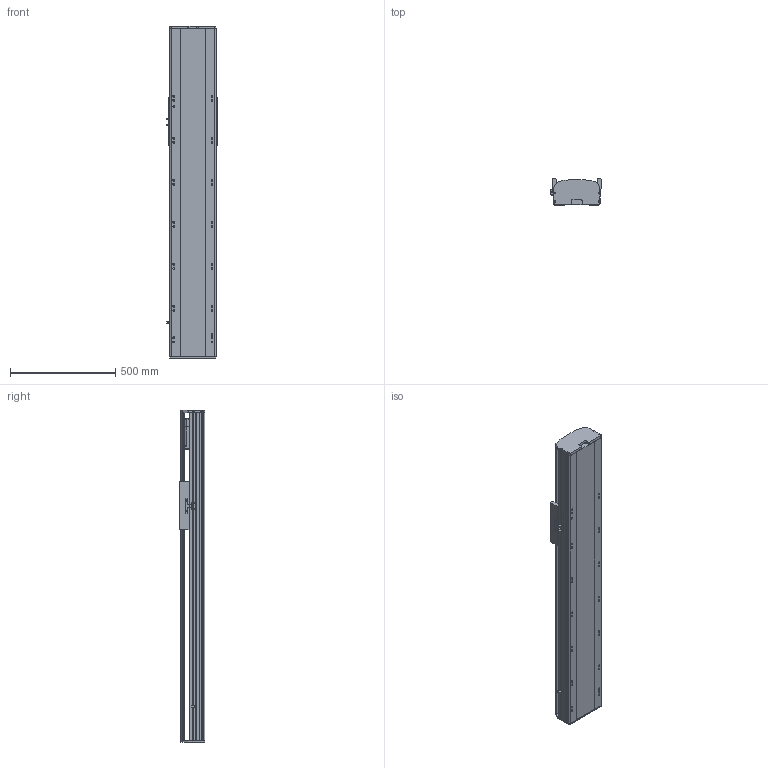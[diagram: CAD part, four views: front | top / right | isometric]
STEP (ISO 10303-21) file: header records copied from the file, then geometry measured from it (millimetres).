
FILE_DESCRIPTION (( 'STEP AP214' ), '1' );
FILE_NAME ('RTH22-XX-950-B-M75B-C4.STEP', '2025-10-24T10:11:23', ( 'Microsoft' ), ( 'Microsoft' ), 'SwSTEP 2.0', 'SolidWorks 2018', '' );
FILE_SCHEMA (( 'AUTOMOTIVE_DESIGN' ));
Length unit declared in the file: millimetre
Products named in the file (9): N_OMRON EE-SX672 传感器^RTH22-XX-XX-B-M75B-C4; N_RTH22-B-007B奻裔^RTH22-XX-XX-B-M75B-C4; N_RTH22-B-011B菁釱^RTH22-XX-XX-B-M75B-C4; N_RTH22-GY-001耜裔^RTH22-XX-XX-B-M75B-C4; RTH22-XX-950-B-M75B-C4; N_RTH22-GY-013外置感应片^RTH22-XX-XX-B-M75B-C4; N_750W萇儂^RTH22-XX-XX-B-M75B-C4; N_RTH22-B008萇儂啣^RTH22-XX-XX-B-M75B-C4; N_RTH22-E-004-SFS25賑釱^RTH22-XX-XX-B-M75B-C4
Assembly tree (10 placements, depth 2):
  RTH22-XX-950-B-M75B-C4
    N_RTH22-B-011B菁釱^RTH22-XX-XX-B-M75B-C4
    N_RTH22-GY-001耜裔^RTH22-XX-XX-B-M75B-C4
    N_750W萇儂^RTH22-XX-XX-B-M75B-C4
    N_RTH22-B008萇儂啣^RTH22-XX-XX-B-M75B-C4
    N_RTH22-B-007B奻裔^RTH22-XX-XX-B-M75B-C4
    N_OMRON EE-SX672 传感器^RTH22-XX-XX-B-M75B-C4  x3
    N_RTH22-GY-013外置感应片^RTH22-XX-XX-B-M75B-C4
    N_RTH22-E-004-SFS25賑釱^RTH22-XX-XX-B-M75B-C4
Bounding box: 238.5 x 122 x 1580 mm (x, y, z)
Volume: 21369898.1 mm3; surface area: 2200872.5 mm2
Topology: 10 solids, 10 shells, 1533 faces, 4200 edges, 2713 vertices
Faces by surface type: plane 754, cylinder 442, bspline 279, cone 58
Entity records: 38091 total; most frequent: CARTESIAN_POINT 11845, ORIENTED_EDGE 5376, DIRECTION 5046, EDGE_CURVE 2688, VERTEX_POINT 1749, AXIS2_PLACEMENT_3D 1698, VECTOR 1650, LINE 1650
